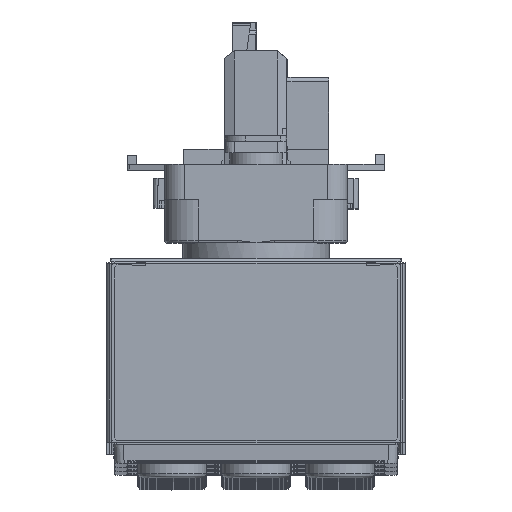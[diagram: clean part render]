
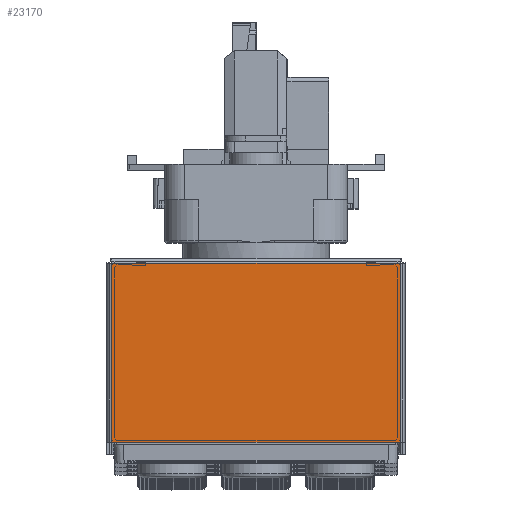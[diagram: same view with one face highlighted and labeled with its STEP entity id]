
A CAD part, top view. The second image highlights one B-rep face of the part: STEP entity #23170.
In plain terms, the highlighted planar face has unit normal (0, 0, 1).
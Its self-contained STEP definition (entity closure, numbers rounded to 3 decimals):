
#3756=FACE_OUTER_BOUND('',#5310,.T.);
#5310=EDGE_LOOP('',(#19778,#19779,#19780,#19781));
#7079=LINE('',#43901,#8721);
#7080=LINE('',#43903,#8722);
#7081=LINE('',#43905,#8723);
#7082=LINE('',#43906,#8724);
#8721=VECTOR('',#32338,10.);
#8722=VECTOR('',#32339,10.);
#8723=VECTOR('',#32340,10.);
#8724=VECTOR('',#32341,10.);
#10741=VERTEX_POINT('',#43899);
#10742=VERTEX_POINT('',#43900);
#10743=VERTEX_POINT('',#43902);
#10744=VERTEX_POINT('',#43904);
#13835=EDGE_CURVE('',#10741,#10742,#7079,.T.);
#13836=EDGE_CURVE('',#10742,#10743,#7080,.T.);
#13837=EDGE_CURVE('',#10744,#10743,#7081,.T.);
#13838=EDGE_CURVE('',#10744,#10741,#7082,.T.);
#19778=ORIENTED_EDGE('',*,*,#13835,.T.);
#19779=ORIENTED_EDGE('',*,*,#13836,.T.);
#19780=ORIENTED_EDGE('',*,*,#13837,.F.);
#19781=ORIENTED_EDGE('',*,*,#13838,.T.);
#21966=PLANE('',#25770);
#23170=ADVANCED_FACE('',(#3756),#21966,.T.);
#25770=AXIS2_PLACEMENT_3D('',#43898,#32336,#32337);
#32336=DIRECTION('center_axis',(0.,0.,
1.));
#32337=DIRECTION('ref_axis',(1.,0.,0.));
#32338=DIRECTION('',(-1.,0.,0.));
#32339=DIRECTION('',(0.,-1.,0.));
#32340=DIRECTION('',(-1.,0.,0.));
#32341=DIRECTION('',(0.,1.,0.));
#43898=CARTESIAN_POINT('Origin',(0.,20.419,
750.5));
#43899=CARTESIAN_POINT('',(31.5,39.419,750.5));
#43900=CARTESIAN_POINT('',(-31.5,39.419,750.5));
#43901=CARTESIAN_POINT('',(15.75,39.419,750.5));
#43902=CARTESIAN_POINT('',(-31.5,0.419,750.5));
#43903=CARTESIAN_POINT('',(-31.5,29.919,750.5));
#43904=CARTESIAN_POINT('',(31.5,0.419,750.5));
#43905=CARTESIAN_POINT('',(32.5,0.419,750.5));
#43906=CARTESIAN_POINT('',(31.5,10.419,750.5));
